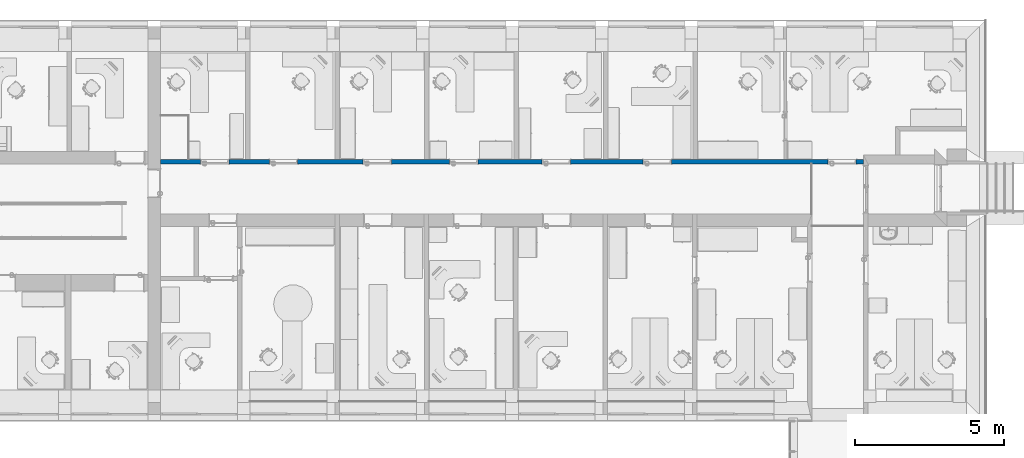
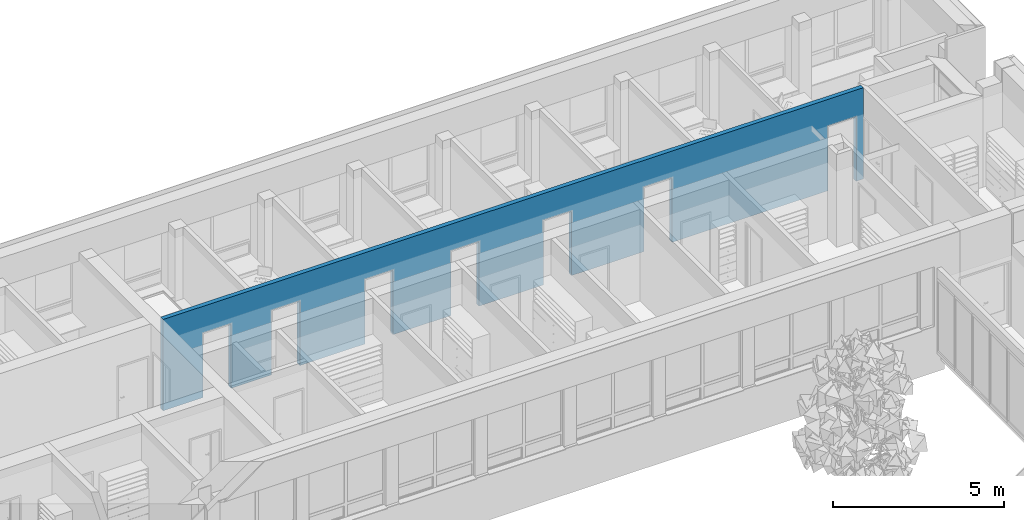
# One storey, part 31 of 194: 1 wall, 7 openings.
"""IFC2X3 building model written with IfcOpenShell, lengths in millimetres."""

from ifc_helpers import new_model, entity, si_unit, converted_unit, derived_unit, money_unit, direction, frame, origin_with_axes, origin_2d_with_axis, place, context, subcontext, project, spatial, polyline, rectangle, outline, extrude, material, layer, layer_set, layer_usage, type_object, element, save


model = new_model("IFC2X3")

# Units and contexts
model_context = context("Model", 3, precision=1e-05, world=origin_with_axes(), true_north=direction((0.0, 1.0)))
body_context = subcontext(model_context, "Body", "Model", "MODEL_VIEW")
ifc_project = project(units=[si_unit("LENGTHUNIT", "METRE", prefix="MILLI"), si_unit("AREAUNIT", "SQUARE_METRE"), si_unit("VOLUMEUNIT", "CUBIC_METRE"), converted_unit("PLANEANGLEUNIT", "DEGREE", entity("IfcPlaneAngleMeasure", 0.0174532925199), si_unit("PLANEANGLEUNIT", "RADIAN"), dimensions=[0, 0, 0, 0, 0, 0, 0]), si_unit("SOLIDANGLEUNIT", "STERADIAN"), money_unit("EUR"), converted_unit("TIMEUNIT", "Year", entity("IfcTimeMeasure", 31556926.0), si_unit("TIMEUNIT", "SECOND"), dimensions=[0, 0, 1, 0, 0, 0, 0]), si_unit("MASSUNIT", "GRAM", prefix="KILO"), si_unit("THERMODYNAMICTEMPERATUREUNIT", "DEGREE_CELSIUS"), si_unit("LUMINOUSINTENSITYUNIT", "LUMEN"), si_unit("ENERGYUNIT", "JOULE", prefix="MEGA"), derived_unit("THERMALCONDUCTANCEUNIT", [(si_unit("POWERUNIT", "WATT"), 1), (si_unit("LENGTHUNIT", "METRE"), -1), (si_unit("THERMODYNAMICTEMPERATUREUNIT", "KELVIN"), -1)]), derived_unit("SPECIFICHEATCAPACITYUNIT", [(si_unit("ENERGYUNIT", "JOULE"), 1), (si_unit("MASSUNIT", "GRAM", prefix="KILO"), -1), (si_unit("THERMODYNAMICTEMPERATUREUNIT", "KELVIN"), -1)]), derived_unit("MASSDENSITYUNIT", [(si_unit("MASSUNIT", "GRAM", prefix="KILO"), 1), (si_unit("VOLUMEUNIT", "CUBIC_METRE"), -1)])], contexts=[model_context])

# Site, building, storey
site_placement = place(None, origin_with_axes())
site = spatial("IfcSite", under=ifc_project, at=site_placement, Name="Site", CompositionType="ELEMENT")
building_placement = place(site_placement, origin_with_axes())
building = spatial("IfcBuilding", under=site, at=building_placement, Name="Building", CompositionType="ELEMENT")
storey_placement = place(building_placement, frame((0.0, 0.0, 3000.0), z_axis=(0.0, 0.0, 1.0), x_axis=(1.0, 0.0, 0.0)))
storey = spatial("IfcBuildingStorey", under=building, at=storey_placement, Name="2 KORRUS", CompositionType="ELEMENT", Elevation=3000.0)

# Wall, openings
ifc_material = material(Name="Kivi -Ol.Olev Konstruktsioon")
ifc_layer = layer(ifc_material, 150.0, ventilated="UNKNOWN")
ifc_layer_set = layer_set([ifc_layer], Name="ol.olev ss 150")
ifc_layer_usage = layer_usage(ifc_layer_set, "AXIS2", "NEGATIVE", 150.0)
wall_type = type_object("IfcWallType", Name="SW - 022", PredefinedType="NOTDEFINED")
wall_placement = place(storey_placement, frame((16157.2283117, 67315.4615726, 0.0), z_axis=(0.0, 0.0, 1.0), x_axis=(0.999999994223, -0.000107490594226, 0.0)))
wall = element("IfcWallStandardCase", 1, at=wall_placement, inside=storey, type_object=wall_type, material=ifc_layer_usage, Name="ol.olev ss 150", context=body_context, shape_type="SweptSolid", body=[
    extrude(outline(polyline([(-0.00108024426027, 9.09494701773e-10), (23576.019339, 0.0), (23576.0032154, 150.000000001), (-0.0171733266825, 150.000000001), (-0.00108024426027, 9.09494701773e-10)])), origin_with_axes(), (0.0, 0.0, 1.0), 3250.0),
])
opening_1_placement = place(wall_placement, frame((1817.39413794, 9.09494701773e-10, 0.0), z_axis=(0.0, 0.0, 1.0), x_axis=(1.0, 0.0, 0.0)))
element("IfcOpeningElement", 2, at=opening_1_placement, cuts=wall, Name="Siseuks * Door 22", context=body_context, shape_type="SweptSolid", body=[
    extrude(rectangle(XDim=950.0, YDim=2300.0, at=origin_2d_with_axis()), frame((-1.13686837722e-10, 150.000000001, 1150.0), z_axis=(0.0, 1.0, 0.0), x_axis=(1.0, 0.0, 0.0)), (0.0, 0.0, -1.0), 450.000000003),
    extrude(rectangle(XDim=1024.0, YDim=2337.0, at=origin_2d_with_axis()), frame((0.0, 150.0, 1168.5), z_axis=(0.0, 1.0, 0.0), x_axis=(1.0, 0.0, 0.0)), (0.0, 0.0, 1.0), 150.000000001),
    extrude(rectangle(XDim=1024.0, YDim=2337.0, at=origin_2d_with_axis()), frame((0.0, 0.0, 1168.5), z_axis=(0.0, -1.0, 0.0), x_axis=(1.0, 0.0, 0.0)), (0.0, 0.0, 1.0), 150.000000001),
])
opening_2_placement = place(wall_placement, frame((4126.26650939, 0.0, 0.0), z_axis=(0.0, 0.0, 1.0), x_axis=(1.0, 0.0, 0.0)))
element("IfcOpeningElement", 3, at=opening_2_placement, cuts=wall, Name="Siseuks * Door 22", context=body_context, shape_type="SweptSolid", body=[
    extrude(rectangle(XDim=950.0, YDim=2300.0, at=origin_2d_with_axis()), frame((-1.13686837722e-10, 150.000000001, 1150.0), z_axis=(0.0, 1.0, 0.0), x_axis=(1.0, 0.0, 0.0)), (0.0, 0.0, -1.0), 450.000000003),
    extrude(rectangle(XDim=1024.0, YDim=2337.0, at=origin_2d_with_axis()), frame((0.0, 150.000000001, 1168.5), z_axis=(0.0, 1.0, 0.0), x_axis=(1.0, 0.0, 0.0)), (0.0, 0.0, 1.0), 150.000000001),
    extrude(rectangle(XDim=1024.0, YDim=2337.0, at=origin_2d_with_axis()), frame((0.0, 0.0, 1168.5), z_axis=(0.0, -1.0, 0.0), x_axis=(1.0, 0.0, 0.0)), (0.0, 0.0, 1.0), 150.000000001),
])
opening_3_placement = place(wall_placement, frame((7267.4268605, 9.09494701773e-10, 0.0), z_axis=(0.0, 0.0, 1.0), x_axis=(1.0, 0.0, 0.0)))
element("IfcOpeningElement", 4, at=opening_3_placement, cuts=wall, Name="Siseuks * Door 22", context=body_context, shape_type="SweptSolid", body=[
    extrude(rectangle(XDim=950.0, YDim=2300.0, at=origin_2d_with_axis()), frame((0.0, 150.000000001, 1150.0), z_axis=(0.0, 1.0, 0.0), x_axis=(1.0, 0.0, 0.0)), (0.0, 0.0, -1.0), 450.000000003),
    extrude(rectangle(XDim=1024.0, YDim=2337.0, at=origin_2d_with_axis()), frame((1.13686837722e-10, 150.0, 1168.5), z_axis=(0.0, 1.0, 0.0), x_axis=(1.0, 0.0, 0.0)), (0.0, 0.0, 1.0), 150.000000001),
    extrude(rectangle(XDim=1024.0, YDim=2337.0, at=origin_2d_with_axis()), frame((0.0, 0.0, 1168.5), z_axis=(0.0, -1.0, 0.0), x_axis=(1.0, 0.0, 0.0)), (0.0, 0.0, 1.0), 150.000000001),
])
opening_4_placement = place(wall_placement, frame((10165.2255309, 9.09494701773e-10, 0.0), z_axis=(0.0, 0.0, 1.0), x_axis=(1.0, 0.0, 0.0)))
element("IfcOpeningElement", 5, at=opening_4_placement, cuts=wall, Name="Siseuks * Door 22", context=body_context, shape_type="SweptSolid", body=[
    extrude(rectangle(XDim=950.0, YDim=2300.0, at=origin_2d_with_axis()), frame((-2.27373675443e-10, 150.000000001, 1150.0), z_axis=(0.0, 1.0, 0.0), x_axis=(1.0, 0.0, 0.0)), (0.0, 0.0, -1.0), 450.000000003),
    extrude(rectangle(XDim=1024.0, YDim=2337.0, at=origin_2d_with_axis()), frame((-1.13686837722e-10, 150.0, 1168.5), z_axis=(0.0, 1.0, 0.0), x_axis=(1.0, 0.0, 0.0)), (0.0, 0.0, 1.0), 150.000000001),
    extrude(rectangle(XDim=1024.0, YDim=2337.0, at=origin_2d_with_axis()), frame((0.0, 0.0, 1168.5), z_axis=(0.0, -1.0, 0.0), x_axis=(1.0, 0.0, 0.0)), (0.0, 0.0, 1.0), 150.000000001),
])
opening_5_placement = place(wall_placement, frame((13272.433339, 0.0, 0.0), z_axis=(0.0, 0.0, 1.0), x_axis=(1.0, 0.0, 0.0)))
element("IfcOpeningElement", 6, at=opening_5_placement, cuts=wall, Name="Siseuks * Door 22", context=body_context, shape_type="SweptSolid", body=[
    extrude(rectangle(XDim=950.0, YDim=2300.0, at=origin_2d_with_axis()), frame((-1.13686837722e-10, 150.000000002, 1150.0), z_axis=(0.0, 1.0, 0.0), x_axis=(1.0, 0.0, 0.0)), (0.0, 0.0, -1.0), 450.000000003),
    extrude(rectangle(XDim=1024.0, YDim=2337.0, at=origin_2d_with_axis()), frame((0.0, 150.000000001, 1168.5), z_axis=(0.0, 1.0, 0.0), x_axis=(1.0, 0.0, 0.0)), (0.0, 0.0, 1.0), 150.000000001),
    extrude(rectangle(XDim=1024.0, YDim=2337.0, at=origin_2d_with_axis()), frame((0.0, 0.0, 1168.5), z_axis=(0.0, -1.0, 0.0), x_axis=(1.0, 0.0, 0.0)), (0.0, 0.0, 1.0), 150.000000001),
])
opening_6_placement = place(wall_placement, frame((16657.5397331, 9.09494701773e-10, 0.0), z_axis=(0.0, 0.0, 1.0), x_axis=(1.0, 0.0, 0.0)))
element("IfcOpeningElement", 7, at=opening_6_placement, cuts=wall, Name="Siseuks * Door 22", context=body_context, shape_type="SweptSolid", body=[
    extrude(rectangle(XDim=950.0, YDim=2300.0, at=origin_2d_with_axis()), frame((-1.13686837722e-10, 150.000000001, 1150.0), z_axis=(0.0, 1.0, 0.0), x_axis=(1.0, 0.0, 0.0)), (0.0, 0.0, -1.0), 450.000000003),
    extrude(rectangle(XDim=1024.0, YDim=2337.0, at=origin_2d_with_axis()), frame((0.0, 150.000000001, 1168.5), z_axis=(0.0, 1.0, 0.0), x_axis=(1.0, 0.0, 0.0)), (0.0, 0.0, 1.0), 150.000000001),
    extrude(rectangle(XDim=1024.0, YDim=2337.0, at=origin_2d_with_axis()), frame((0.0, 0.0, 1168.5), z_axis=(0.0, -1.0, 0.0), x_axis=(1.0, 0.0, 0.0)), (0.0, 0.0, 1.0), 150.000000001),
])
opening_7_placement = place(wall_placement, frame((22859.4819035, 0.0, 0.0), z_axis=(0.0, 0.0, 1.0), x_axis=(1.0, 0.0, 0.0)))
element("IfcOpeningElement", 8, at=opening_7_placement, cuts=wall, Name="Siseuks * Door 22", context=body_context, shape_type="SweptSolid", body=[
    extrude(rectangle(XDim=950.0, YDim=2300.0, at=origin_2d_with_axis()), frame((-1.13686837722e-10, 150.000000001, 1150.0), z_axis=(0.0, 1.0, 0.0), x_axis=(1.0, 0.0, 0.0)), (0.0, 0.0, -1.0), 450.000000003),
    extrude(rectangle(XDim=1024.0, YDim=2337.0, at=origin_2d_with_axis()), frame((0.0, 150.000000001, 1168.5), z_axis=(0.0, 1.0, 0.0), x_axis=(1.0, 0.0, 0.0)), (0.0, 0.0, 1.0), 150.000000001),
    extrude(rectangle(XDim=1024.0, YDim=2337.0, at=origin_2d_with_axis()), frame((0.0, 0.0, 1168.5), z_axis=(0.0, -1.0, 0.0), x_axis=(1.0, 0.0, 0.0)), (0.0, 0.0, 1.0), 150.000000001),
])

save(model, "model.ifc")
